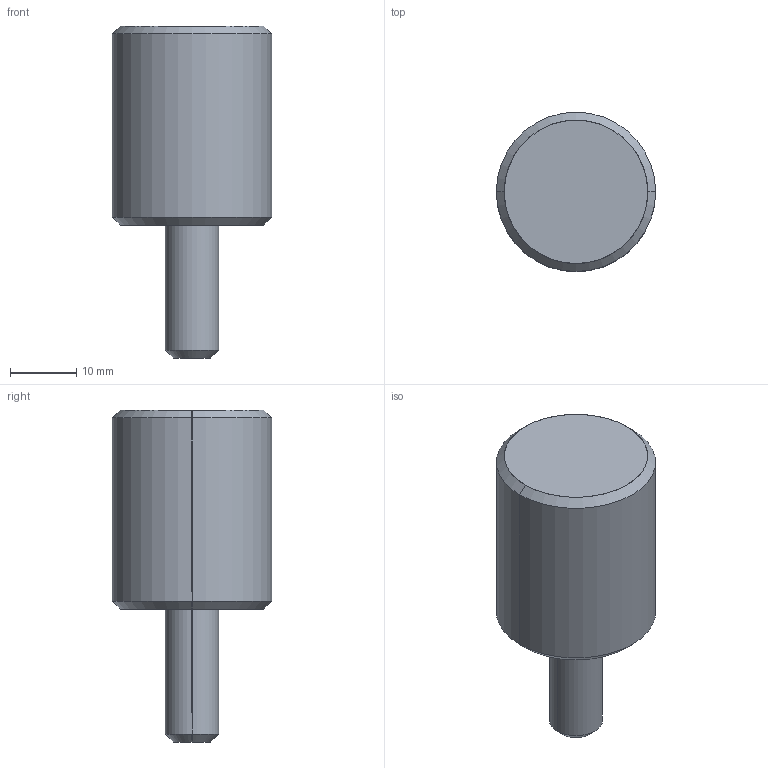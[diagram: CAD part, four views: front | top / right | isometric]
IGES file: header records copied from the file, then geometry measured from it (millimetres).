
Start section: SolidWorks IGES file using analytic representation for surfaces
Global section: file name: X:\11_SW2020-Inv2020\00_全2021-11新製品まで\l\LKS8X20-SUS\lks8x20-sus.IGS; native system: SolidWorks 2020; preprocessor: SolidWorks 2020; author: ImaoCorp; date: 211025.115349; units: millimetre
Bounding box: 24 x 24 x 50 mm (x, y, z)
Surface area: 3540.1 mm2 (no closed solid volume)
Topology: 0 solids, 0 shells, 13 faces, 168 edges, 168 vertices
Faces by surface type: revolution 10, bspline 3
